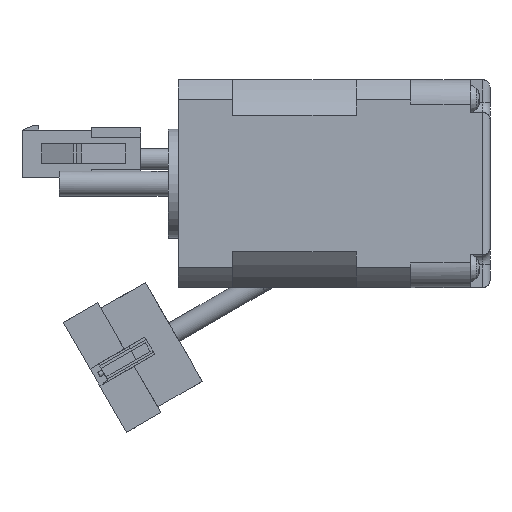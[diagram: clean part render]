
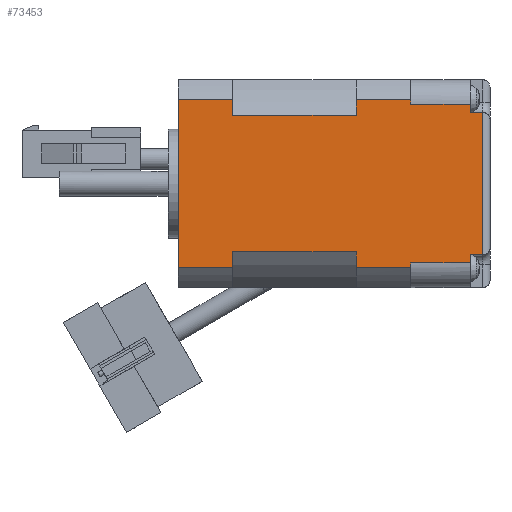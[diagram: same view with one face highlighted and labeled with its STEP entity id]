
A CAD part, front view. The second image highlights one B-rep face of the part: STEP entity #73453.
In plain terms, the highlighted planar face has unit normal (0, -1, 0).
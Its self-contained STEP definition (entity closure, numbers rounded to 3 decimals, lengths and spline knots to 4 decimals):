
#214=LINE('',#100343,#10591);
#273=LINE('',#100807,#10650);
#277=LINE('',#100817,#10654);
#343=LINE('',#101140,#10720);
#344=LINE('',#101144,#10721);
#346=LINE('',#101151,#10723);
#360=LINE('',#101198,#10737);
#363=LINE('',#101209,#10740);
#364=LINE('',#101212,#10741);
#376=LINE('',#101248,#10753);
#377=LINE('',#101260,#10754);
#384=LINE('',#101270,#10761);
#389=LINE('',#101296,#10766);
#419=LINE('',#101375,#10796);
#420=LINE('',#101378,#10797);
#421=LINE('',#101379,#10798);
#422=LINE('',#101381,#10799);
#423=LINE('',#101382,#10800);
#424=LINE('',#101384,#10801);
#425=LINE('',#101385,#10802);
#10591=VECTOR('',#81448,0.063);
#10650=VECTOR('',#81733,0.063);
#10654=VECTOR('',#81743,0.0984);
#10720=VECTOR('',#81965,0.1262);
#10721=VECTOR('',#81968,0.1262);
#10723=VECTOR('',#81976,0.9843);
#10737=VECTOR('',#82020,0.9843);
#10740=VECTOR('',#82031,0.1262);
#10741=VECTOR('',#82034,0.1262);
#10753=VECTOR('',#82064,1.3363);
#10754=VECTOR('',#82077,0.4331);
#10761=VECTOR('',#82090,0.4331);
#10766=VECTOR('',#82119,0.4331);
#10796=VECTOR('',#82185,0.4331);
#10797=VECTOR('',#82188,0.0382);
#10798=VECTOR('',#82189,0.4724);
#10799=VECTOR('',#82190,0.0984);
#10800=VECTOR('',#82191,1.1339);
#10801=VECTOR('',#82192,0.4724);
#10802=VECTOR('',#82193,0.0382);
#21048=PLANE('',#77424);
#24866=FACE_OUTER_BOUND('',#28667,.T.);
#28667=EDGE_LOOP('',(#52110,#52111,#52112,#52113,#52114,#52115,#52116,#52117,
#52118,#52119,#52120,#52121,#52122,#52123,#52124,#52125,#52126,#52127,#52128,
#52129));
#33078=VERTEX_POINT('',#100340);
#33079=VERTEX_POINT('',#100342);
#33174=VERTEX_POINT('',#100804);
#33175=VERTEX_POINT('',#100806);
#33178=VERTEX_POINT('',#100816);
#33269=VERTEX_POINT('',#101134);
#33271=VERTEX_POINT('',#101138);
#33272=VERTEX_POINT('',#101142);
#33273=VERTEX_POINT('',#101143);
#33292=VERTEX_POINT('',#101196);
#33293=VERTEX_POINT('',#101197);
#33297=VERTEX_POINT('',#101207);
#33298=VERTEX_POINT('',#101211);
#33306=VERTEX_POINT('',#101233);
#33313=VERTEX_POINT('',#101246);
#33327=VERTEX_POINT('',#101295);
#33358=VERTEX_POINT('',#101373);
#33359=VERTEX_POINT('',#101377);
#33360=VERTEX_POINT('',#101380);
#33361=VERTEX_POINT('',#101383);
#40424=EDGE_CURVE('',#33078,#33079,#214,.T.);
#40568=EDGE_CURVE('',#33174,#33175,#273,.T.);
#40573=EDGE_CURVE('',#33175,#33178,#277,.T.);
#40697=EDGE_CURVE('',#33269,#33271,#343,.T.);
#40698=EDGE_CURVE('',#33272,#33273,#344,.T.);
#40702=EDGE_CURVE('',#33273,#33271,#346,.T.);
#40724=EDGE_CURVE('',#33292,#33293,#360,.T.);
#40730=EDGE_CURVE('',#33292,#33297,#363,.T.);
#40731=EDGE_CURVE('',#33293,#33298,#364,.T.);
#40749=EDGE_CURVE('',#33313,#33306,#376,.T.);
#40755=EDGE_CURVE('',#33306,#33297,#377,.T.);
#40762=EDGE_CURVE('',#33313,#33269,#384,.T.);
#40773=EDGE_CURVE('',#33298,#33327,#389,.T.);
#40815=EDGE_CURVE('',#33272,#33358,#419,.T.);
#40816=EDGE_CURVE('',#33358,#33359,#420,.T.);
#40817=EDGE_CURVE('',#33359,#33079,#421,.T.);
#40818=EDGE_CURVE('',#33078,#33360,#422,.T.);
#40819=EDGE_CURVE('',#33360,#33178,#423,.T.);
#40820=EDGE_CURVE('',#33361,#33174,#424,.T.);
#40821=EDGE_CURVE('',#33361,#33327,#425,.T.);
#52110=ORIENTED_EDGE('',*,*,#40698,.F.);
#52111=ORIENTED_EDGE('',*,*,#40815,.T.);
#52112=ORIENTED_EDGE('',*,*,#40816,.T.);
#52113=ORIENTED_EDGE('',*,*,#40817,.T.);
#52114=ORIENTED_EDGE('',*,*,#40424,.F.);
#52115=ORIENTED_EDGE('',*,*,#40818,.T.);
#52116=ORIENTED_EDGE('',*,*,#40819,.T.);
#52117=ORIENTED_EDGE('',*,*,#40573,.F.);
#52118=ORIENTED_EDGE('',*,*,#40568,.F.);
#52119=ORIENTED_EDGE('',*,*,#40820,.F.);
#52120=ORIENTED_EDGE('',*,*,#40821,.T.);
#52121=ORIENTED_EDGE('',*,*,#40773,.F.);
#52122=ORIENTED_EDGE('',*,*,#40731,.F.);
#52123=ORIENTED_EDGE('',*,*,#40724,.F.);
#52124=ORIENTED_EDGE('',*,*,#40730,.T.);
#52125=ORIENTED_EDGE('',*,*,#40755,.F.);
#52126=ORIENTED_EDGE('',*,*,#40749,.F.);
#52127=ORIENTED_EDGE('',*,*,#40762,.T.);
#52128=ORIENTED_EDGE('',*,*,#40697,.T.);
#52129=ORIENTED_EDGE('',*,*,#40702,.F.);
#73453=ADVANCED_FACE('',(#24866),#21048,.F.);
#77424=AXIS2_PLACEMENT_3D('',#101376,#82186,#82187);
#81448=DIRECTION('',(0.,0.,-1.));
#81733=DIRECTION('',(0.,0.,-1.));
#81743=DIRECTION('',(1.,0.,0.));
#81965=DIRECTION('',(0.,0.,1.));
#81968=DIRECTION('',(0.,0.,1.));
#81976=DIRECTION('',(-1.,0.,0.));
#82020=DIRECTION('',(1.,0.,0.));
#82031=DIRECTION('',(0.,0.,1.));
#82034=DIRECTION('',(0.,0.,1.));
#82064=DIRECTION('',(0.,0.,1.));
#82077=DIRECTION('',(1.,0.,0.));
#82090=DIRECTION('',(1.,0.,0.));
#82119=DIRECTION('',(1.,0.,0.));
#82185=DIRECTION('',(1.,0.,0.));
#82186=DIRECTION('center_axis',(0.,1.,0.));
#82187=DIRECTION('ref_axis',(0.,0.,-1.));
#82188=DIRECTION('',(0.,0.,1.));
#82189=DIRECTION('',(1.,0.,0.));
#82190=DIRECTION('',(1.,0.,0.));
#82191=DIRECTION('',(0.,0.,1.));
#82192=DIRECTION('',(1.,0.,0.));
#82193=DIRECTION('',(0.,0.,1.));
#100340=CARTESIAN_POINT('',(0.4724,-0.8064,-0.5134));
#100342=CARTESIAN_POINT('',(0.4724,-0.8064,-0.5764));
#100343=CARTESIAN_POINT('',(0.4724,-0.8064,-0.5134));
#100804=CARTESIAN_POINT('',(0.4724,-0.8064,0.6834));
#100806=CARTESIAN_POINT('',(0.4724,-0.8064,0.6204));
#100807=CARTESIAN_POINT('',(0.4724,-0.8064,0.6204));
#100816=CARTESIAN_POINT('',(0.5709,-0.8064,0.6204));
#100817=CARTESIAN_POINT('',(0.4724,-0.8064,0.6204));
#101134=CARTESIAN_POINT('',(-1.4173,-0.8064,-0.6146));
#101138=CARTESIAN_POINT('',(-1.4173,-0.8064,-0.4885));
#101140=CARTESIAN_POINT('',(-1.4173,-0.8064,-0.6146));
#101142=CARTESIAN_POINT('',(-0.4331,-0.8064,-0.6146));
#101143=CARTESIAN_POINT('',(-0.4331,-0.8064,-0.4885));
#101144=CARTESIAN_POINT('',(-0.4331,-0.8064,-0.6146));
#101151=CARTESIAN_POINT('',(-0.4331,-0.8064,-0.4885));
#101196=CARTESIAN_POINT('',(-1.4173,-0.8064,0.5955));
#101197=CARTESIAN_POINT('',(-0.4331,-0.8064,0.5955));
#101198=CARTESIAN_POINT('',(-0.4331,-0.8064,0.5955));
#101207=CARTESIAN_POINT('',(-1.4173,-0.8064,0.7216));
#101209=CARTESIAN_POINT('',(-1.4173,-0.8064,-0.6146));
#101211=CARTESIAN_POINT('',(-0.4331,-0.8064,0.7216));
#101212=CARTESIAN_POINT('',(-0.4331,-0.8064,-0.6146));
#101233=CARTESIAN_POINT('',(-1.8504,-0.8064,0.7216));
#101246=CARTESIAN_POINT('',(-1.8504,-0.8064,-0.6146));
#101248=CARTESIAN_POINT('',(-1.8504,-0.8064,-0.6146));
#101260=CARTESIAN_POINT('',(-1.8504,-0.8064,0.7216));
#101270=CARTESIAN_POINT('',(-1.8504,-0.8064,-0.6146));
#101295=CARTESIAN_POINT('',(0.,-0.8064,0.7216));
#101296=CARTESIAN_POINT('',(-1.8504,-0.8064,0.7216));
#101373=CARTESIAN_POINT('',(0.,-0.8064,-0.6146));
#101375=CARTESIAN_POINT('',(-1.8504,-0.8064,-0.6146));
#101376=CARTESIAN_POINT('Origin',(-1.8504,-0.8064,
-0.6146));
#101377=CARTESIAN_POINT('',(0.,-0.8064,-0.5764));
#101378=CARTESIAN_POINT('',(0.,-0.8064,-0.6146));
#101379=CARTESIAN_POINT('',(0.,-0.8064,-0.5764));
#101380=CARTESIAN_POINT('',(0.5709,-0.8064,-0.5134));
#101381=CARTESIAN_POINT('',(0.4724,-0.8064,-0.5134));
#101382=CARTESIAN_POINT('',(0.5709,-0.8064,-2.1698));
#101383=CARTESIAN_POINT('',(0.,-0.8064,0.6834));
#101384=CARTESIAN_POINT('',(0.,-0.8064,0.6834));
#101385=CARTESIAN_POINT('',(0.,-0.8064,-0.6146));
